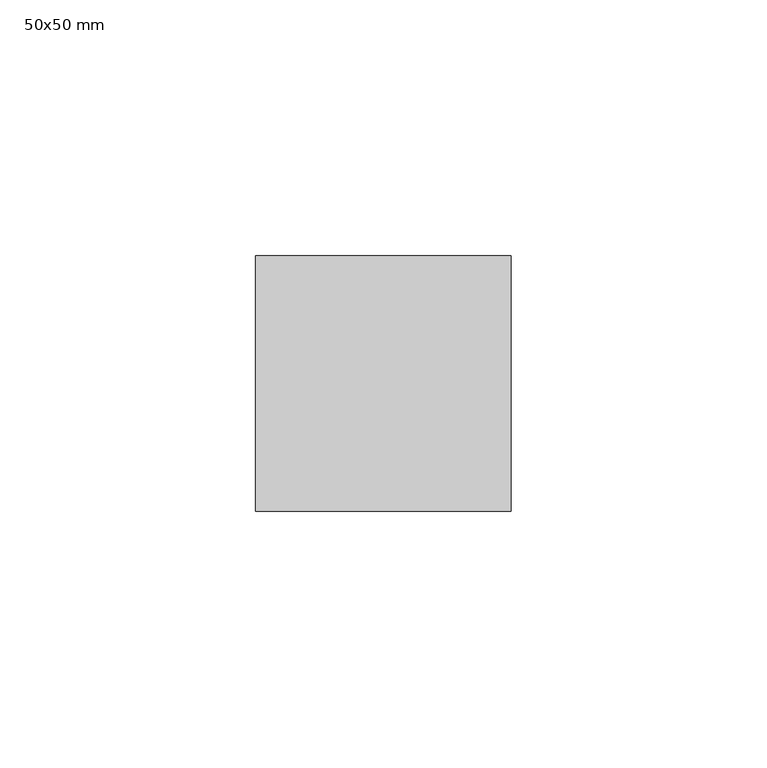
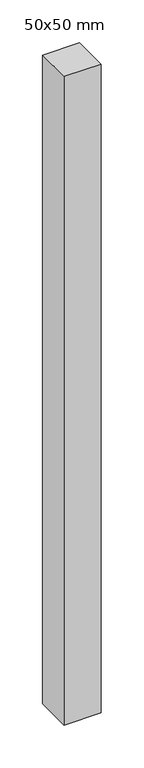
"""IFC4 building model written with IfcOpenShell, lengths in millimetres: member geometry, Obdélníková příčel : 50x50 mm."""

import ifcopenshell
import ifcopenshell.guid

model = None  # the IFC model being written
_history = None  # IfcOwnerHistory: only IFC2X3 demands one
_inside = {}  # id of a spatial element -> (the spatial element, [elements in it])
_under = {}  # id of a project, library or spatial element -> (it, [spatial elements below it])
_declared = {}  # id of a project -> (the project, [libraries it declares])
_typed = {}  # id of a type object -> (the type object, [elements of that type])
_made_of = {}  # id of a material, layer set ... -> (it, [elements and type objects made of it])


def new_model(schema):
    """Start an empty IFC model of exactly this schema.

    Asked for "IFC4X3", IfcOpenShell would pick the latest addendum, in which some entities
    have other attributes; the version numbers below select the first issue.
    IFC2X3 requires an IfcOwnerHistory on every rooted entity: one is made here for all.
    """
    global model, _history
    if schema == "IFC4X3":
        model = ifcopenshell.file(schema_version=(4, 3, 0, 0))
    else:
        model = ifcopenshell.file(schema=schema)
    _inside.clear()
    _under.clear()
    _declared.clear()
    _typed.clear()
    _made_of.clear()
    _history = None
    if model.schema == "IFC2X3":
        org = make("IfcOrganization", Name="unknown")
        user = make(
            "IfcPersonAndOrganization",
            ThePerson=make("IfcPerson", FamilyName="unknown"),
            TheOrganization=org,
        )
        app = make(
            "IfcApplication",
            ApplicationDeveloper=org,
            Version="unknown",
            ApplicationFullName="unknown",
            ApplicationIdentifier="unknown",
        )
        _history = make(
            "IfcOwnerHistory",
            OwningUser=user,
            OwningApplication=app,
            ChangeAction="ADDED",
            CreationDate=0,
        )
    return model


def make(cls, **values):
    """One entity of the class cls with the attributes given. An attribute that is None is left unset."""
    return model.create_entity(
        cls, **{name: value for name, value in values.items() if value is not None}
    )


def rooted(cls, **values):
    """An entity with a GlobalId (a new one), such as an element, a storey or a relation."""
    return make(cls, GlobalId=ifcopenshell.guid.new(), OwnerHistory=_history, **values)


def si_unit(unit_type, name, prefix=None):
    """IfcSIUnit, for example si_unit("LENGTHUNIT", "METRE", prefix="MILLI")."""
    return make("IfcSIUnit", UnitType=unit_type, Prefix=prefix, Name=name)


def assignment(units):
    """IfcUnitAssignment: the units of a project."""
    return None if units is None else make("IfcUnitAssignment", Units=units)


def point(xyz):
    """IfcCartesianPoint."""
    return None if xyz is None else make("IfcCartesianPoint", Coordinates=xyz)


def direction(xyz):
    """IfcDirection."""
    return None if xyz is None else make("IfcDirection", DirectionRatios=xyz)


def frame(location, z_axis=None, x_axis=None):
    """IfcAxis2Placement3D, a coordinate frame: its origin and axes. An axis left out is left unset."""
    return make(
        "IfcAxis2Placement3D",
        Location=point(location),
        Axis=direction(z_axis),
        RefDirection=direction(x_axis),
    )


def origin():
    """The frame at (0, 0, 0) with its axes left unset."""
    return frame((0.0, 0.0, 0.0))


def place(relative_to, where):
    """IfcLocalPlacement: puts the frame where relative to a parent placement (None: the world)."""
    return make(
        "IfcLocalPlacement", PlacementRelTo=relative_to, RelativePlacement=where
    )


def context(
    kind, dimensions, precision=None, world=None, true_north=None, identifier=None
):
    """IfcGeometricRepresentationContext, for example the 3D "Model" context."""
    return make(
        "IfcGeometricRepresentationContext",
        ContextIdentifier=identifier,
        ContextType=kind,
        CoordinateSpaceDimension=dimensions,
        Precision=precision,
        WorldCoordinateSystem=world,
        TrueNorth=true_north,
    )


def project(units=None, contexts=None):
    """IfcProject with its units and contexts."""
    return rooted(
        "IfcProject",
        Name="project",
        RepresentationContexts=contexts,
        UnitsInContext=assignment(units),
    )


def spatial(cls, under=None, at=None, **own):
    """A site, building, storey or space (cls), placed at a placement, below another one or the project."""
    s = rooted(cls, ObjectPlacement=at, **own)
    if under is not None:
        _under.setdefault(under.id(), (under, []))[1].append(s)
    return s


def polyline(points):
    """IfcPolyline through the points."""
    return make("IfcPolyline", Points=[point(p) for p in points])


def outline(outer, holes=None, kind="AREA"):
    """IfcArbitraryClosedProfileDef: a profile drawn as a closed curve; with holes, ...WithVoids."""
    if holes is None:
        return make("IfcArbitraryClosedProfileDef", ProfileType=kind, OuterCurve=outer)
    return make(
        "IfcArbitraryProfileDefWithVoids",
        ProfileType=kind,
        OuterCurve=outer,
        InnerCurves=holes,
    )


def extrude(swept, where, along, depth):
    """IfcExtrudedAreaSolid: the profile swept, set in the frame where, extruded along a direction by depth."""
    return make(
        "IfcExtrudedAreaSolid",
        SweptArea=swept,
        Position=where,
        ExtrudedDirection=direction(along),
        Depth=depth,
    )


def shape(context_of_items, identifier, shape_type, items):
    """IfcShapeRepresentation: the items that make up one representation, for example the "Body"."""
    return make(
        "IfcShapeRepresentation",
        ContextOfItems=context_of_items,
        RepresentationIdentifier=identifier,
        RepresentationType=shape_type,
        Items=items,
    )


def source(mapping_origin, context_of_items, identifier, shape_type, items):
    """IfcRepresentationMap: a shape defined once, which mapped items show again and again."""
    return make(
        "IfcRepresentationMap",
        MappingOrigin=mapping_origin,
        MappedRepresentation=shape(context_of_items, identifier, shape_type, items),
    )


def transform(
    local_origin,
    x_axis=None,
    y_axis=None,
    z_axis=None,
    scale=None,
    scale2=None,
    scale3=None,
    uniform=True,
):
    """IfcCartesianTransformationOperator3D, or its non-uniform kind. x_axis, y_axis, z_axis: its Axis1, 2, 3."""
    if uniform:
        return make(
            "IfcCartesianTransformationOperator3D",
            Axis1=direction(x_axis),
            Axis2=direction(y_axis),
            LocalOrigin=point(local_origin),
            Scale=scale,
            Axis3=direction(z_axis),
        )
    return make(
        "IfcCartesianTransformationOperator3DnonUniform",
        Axis1=direction(x_axis),
        Axis2=direction(y_axis),
        LocalOrigin=point(local_origin),
        Scale=scale,
        Axis3=direction(z_axis),
        Scale2=scale2,
        Scale3=scale3,
    )


def mapped(mapping_source, mapping_target):
    """IfcMappedItem: shows the shape of a source again, moved by a transform."""
    return make(
        "IfcMappedItem", MappingSource=mapping_source, MappingTarget=mapping_target
    )


def made_of(thing, what):
    """Note that an element or type object is made of a material, layer set ...; save() writes the relation."""
    if what is not None:
        _made_of.setdefault(what.id(), (what, []))[1].append(thing)
    return thing


def element(
    cls,
    number,
    at=None,
    inside=None,
    cuts=None,
    type_object=None,
    material=None,
    context=None,
    identifier="Body",
    shape_type=None,
    held_by="IfcProductDefinitionShape",
    body=None,
    shapes=None,
    **own,
):
    """One element of the class cls, such as IfcWall. Its Tag is "e" and its number.

    at: its placement. inside: the storey or other place that contains it. cuts: it is an
    opening in that element (IfcRelVoidsElement). A single representation is given by context,
    identifier, shape_type and body (its items); several are given by shapes. held_by: the class
    of the entity that holds the representations. save() writes the other relations.
    """
    e = rooted(cls, Tag="e%d" % number, ObjectPlacement=at, **own)
    if body is not None:
        shapes = [shape(context, identifier, shape_type, body)]
    if shapes is not None:
        e.Representation = make(held_by, Representations=shapes)
    if inside is not None:
        _inside.setdefault(inside.id(), (inside, []))[1].append(e)
    if cuts is not None:
        rooted(
            "IfcRelVoidsElement", RelatingBuildingElement=cuts, RelatedOpeningElement=e
        )
    if type_object is not None:
        _typed.setdefault(type_object.id(), (type_object, []))[1].append(e)
    return made_of(e, material)


def aggregate(whole, parts):
    """IfcRelAggregates: a whole, such as a stair, and the parts it consists of."""
    return rooted("IfcRelAggregates", RelatingObject=whole, RelatedObjects=parts)


def save(model, path):
    """Write the relations noted so far, then the file.

    IfcRelAggregates (storeys below a building ...), IfcRelContainedInSpatialStructure (elements
    in a storey), IfcRelDefinesByType, IfcRelAssociatesMaterial and IfcRelDeclares: one each for
    every whole, place, type object, material and project.
    """
    for whole, parts in _under.values():
        aggregate(whole, parts)
    for where, things in _inside.values():
        rooted(
            "IfcRelContainedInSpatialStructure",
            RelatedElements=things,
            RelatingStructure=where,
        )
    for kind, things in _typed.values():
        rooted("IfcRelDefinesByType", RelatedObjects=things, RelatingType=kind)
    for what, things in _made_of.values():
        rooted("IfcRelAssociatesMaterial", RelatedObjects=things, RelatingMaterial=what)
    for by, libraries in _declared.values():
        rooted("IfcRelDeclares", RelatingContext=by, RelatedDefinitions=libraries)
    model.write(path)


def member_50x50_mm_7f53e2b4(model_context):
    return source(origin(), model_context, "Body", "SweptSolid", [
        extrude(outline(polyline([(0.0, 25.0), (0.0, -25.0), (-50.0, -25.0), (-50.0, 25.0), (0.0, 25.0)])), frame((0.0, 0.0, -925.0), z_axis=(0.0, 0.0, 1.0), x_axis=(1.0, 0.0, 0.0)), (0.0, 0.0, 1.0), 925.0),
    ])


if __name__ == "__main__":
    model = new_model("IFC4")
    model_context = context("Model", 3, world=origin())
    ifc_project = project(units=[si_unit("LENGTHUNIT", "METRE", prefix="MILLI")], contexts=[model_context])
    site = spatial("IfcSite", under=ifc_project)
    building = spatial("IfcBuilding", under=site)
    placement = place(None, origin())
    member_50x50_mm_shape = member_50x50_mm_7f53e2b4(model_context)
    element("IfcMember", 1, ObjectType="Obdélníková příčel : 50x50 mm", at=placement, inside=building, context=model_context, shape_type="MappedRepresentation", body=[
        mapped(member_50x50_mm_shape, transform((0.0, 0.0, 0.0), x_axis=(1.0, 0.0, 0.0), y_axis=(0.0, 1.0, 0.0), z_axis=(0.0, 0.0, 1.0))),
    ])
    save(model, "model.ifc")
